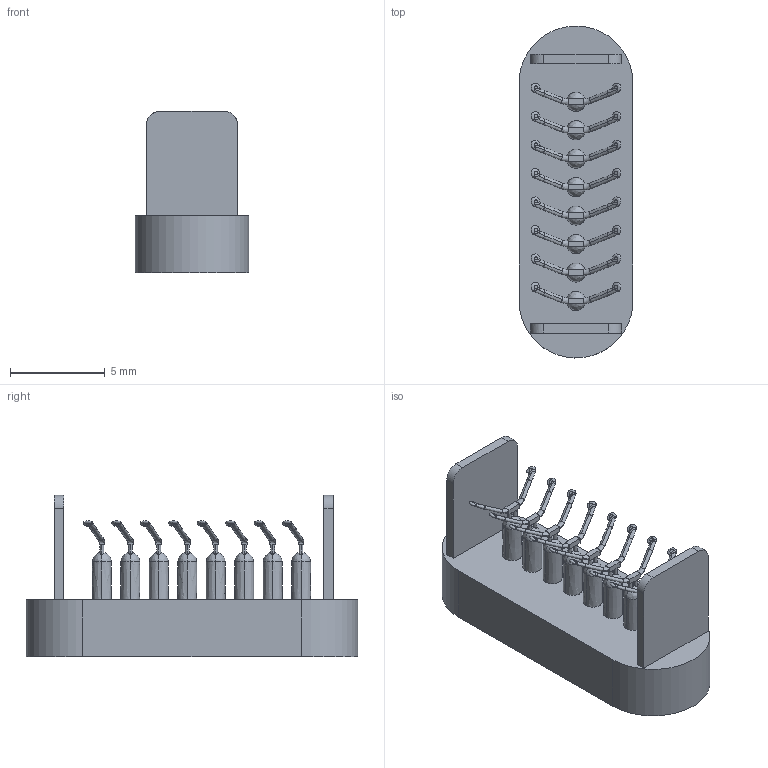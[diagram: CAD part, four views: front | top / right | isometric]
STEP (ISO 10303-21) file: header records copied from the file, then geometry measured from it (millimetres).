
FILE_DESCRIPTION(/* description */ (''),/* implementation_level */ '2;1');
FILE_NAME(/* name */ 'P-51DP~2',/* time_stamp */ '2020-04-21T18:43:19+02:00',/* author */ (''),/* organization */ (''),/* preprocessor_version */ 'ST-DEVELOPER v16.5',/* originating_system */ '',/* authorisation */ '');
FILE_SCHEMA (('AUTOMOTIVE_DESIGN'));
Length unit declared in the file: millimetre
Products named in the file (1): Document
Bounding box: 6 x 17.5 x 8.5 mm (x, y, z)
Volume: 335.8 mm3; surface area: 535.7 mm2
Topology: 1 solids, 1 shells, 340 faces, 848 edges, 504 vertices
Faces by surface type: bspline 216, plane 124
Entity records: 21399 total; most frequent: CARTESIAN_POINT 16390, ORIENTED_EDGE 1664, EDGE_CURVE 832, VERTEX_POINT 504, B_SPLINE_CURVE_WITH_KNOTS 476, EDGE_LOOP 366, ADVANCED_FACE 340, FACE_OUTER_BOUND 340
